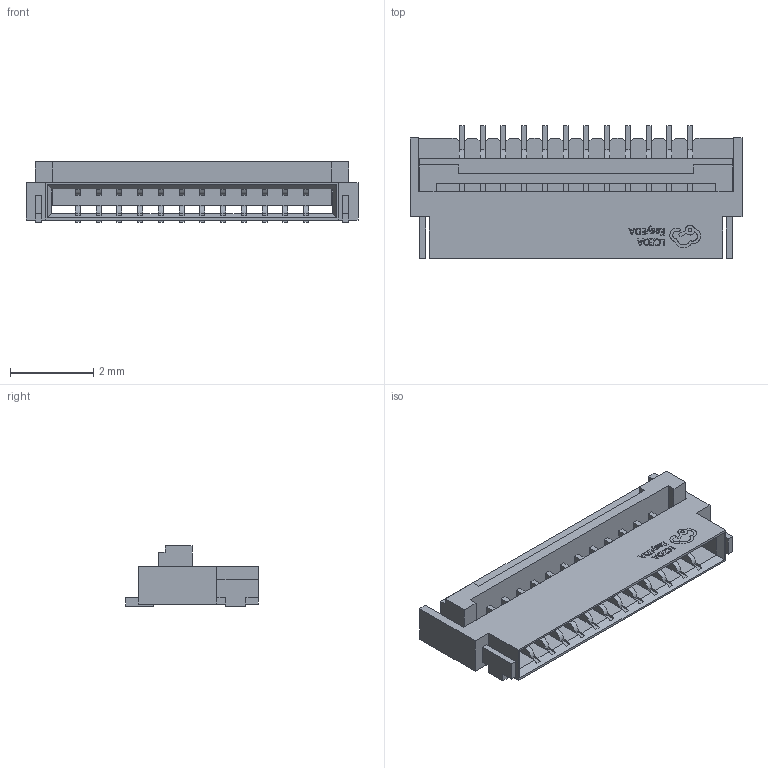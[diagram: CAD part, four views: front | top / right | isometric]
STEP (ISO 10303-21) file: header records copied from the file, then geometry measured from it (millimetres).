
FILE_DESCRIPTION (( 'STEP AP214' ), '1' );
FILE_NAME ('CONN-SMD_FPC0.50-WS-12P.step', '2022-08-08T02:38:31', ( '' ), ( '' ), 'SwSTEP 2.0', 'SolidWorks 2020', '' );
FILE_SCHEMA (( 'AUTOMOTIVE_DESIGN' ));
Length unit declared in the file: millimetre
Products named in the file (1): CONN-SMD_FPC0.50-WS-12P
Bounding box: 8 x 3.2 x 1.45 mm (x, y, z)
Volume: 11.5 mm3; surface area: 151 mm2
Topology: 77 solids, 77 shells, 843 faces, 2045 edges, 1362 vertices
Faces by surface type: plane 695, bspline 124, cylinder 24
Entity records: 34931 total; most frequent: CARTESIAN_POINT 6511, ORIENTED_EDGE 4090, DIRECTION 3281, EDGE_CURVE 2045, VECTOR 1745, LINE 1745, VERTEX_POINT 1362, UNCERTAINTY_MEASURE_WITH_UNIT 865
